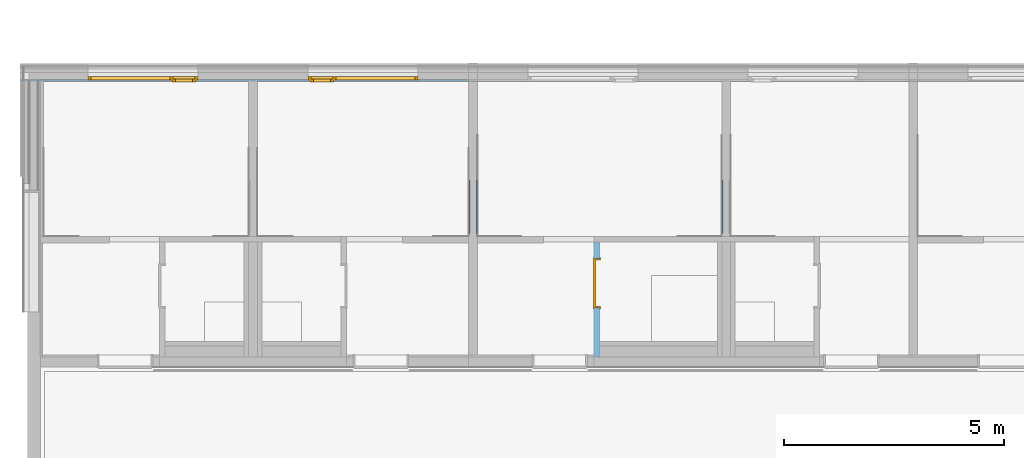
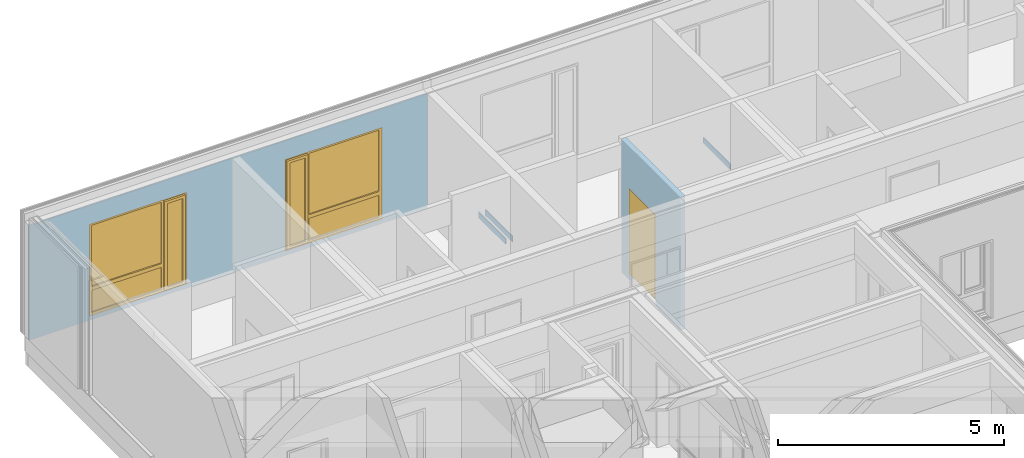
# One storey, part 110 of 207: 3 walls, 2 windows, 1 door, 3 openings, plus 2 elements that do not belong to this part.
"""IFC4 building model written with IfcOpenShell, lengths in metres."""

from ifc_helpers import new_model, entity, si_unit, converted_unit, derived_unit, frame, frame_2d, origin, origin_with_axes, place, context, subcontext, project, spatial, polyline, rectangle, outline, extrude, closed_shell, open_shell, faceted_brep, surface_model, source, transform, mapped, material, type_object, element, fill, save


model = new_model("IFC4")

# Units and contexts
model_context = context("Model", 3, precision=1e-05, world=origin())
body_context = subcontext(model_context, "Body", "Model", "MODEL_VIEW")
ifc_project = project(units=[si_unit("LENGTHUNIT", "METRE"), si_unit("AREAUNIT", "SQUARE_METRE"), si_unit("VOLUMEUNIT", "CUBIC_METRE"), si_unit("MASSUNIT", "GRAM", prefix="KILO"), converted_unit("PLANEANGLEUNIT", "DEGREE", entity("IfcPlaneAngleMeasure", 0.0174532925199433), si_unit("PLANEANGLEUNIT", "RADIAN"), dimensions=[0, 0, 0, 0, 0, 0, 0]), derived_unit("THERMALTRANSMITTANCEUNIT", [(si_unit("POWERUNIT", "WATT"), 1), (si_unit("THERMODYNAMICTEMPERATUREUNIT", "KELVIN"), -1), (si_unit("LENGTHUNIT", "METRE"), -2)]), derived_unit("VOLUMETRICFLOWRATEUNIT", [(si_unit("LENGTHUNIT", "METRE"), 3), (converted_unit("TIMEUNIT", "hour", entity("IfcTimeMeasure", 3600.0), si_unit("TIMEUNIT", "SECOND"), dimensions=[0, 0, 1, 0, 0, 0, 0]), -1), (si_unit("LENGTHUNIT", "METRE"), -1)])], contexts=[model_context])

# Site, building, storey
site_placement = place(None, origin())
site = spatial("IfcSite", under=ifc_project, at=site_placement, Name="Psychiatrie Neubau Wunstorf", CompositionType="ELEMENT")
building_placement = place(site_placement, origin())
building = spatial("IfcBuilding", under=site, at=building_placement, Name="Neubau H2 Stationsgebäude", CompositionType="ELEMENT")
storey_placement = place(building_placement, frame((0.0, 0.0, -0.2)))
storey = spatial("IfcBuildingStorey", under=building, at=storey_placement, Name="H2 Ebene 0", CompositionType="ELEMENT", Elevation=-0.2)

# Wall, openings, windows
ifc_material_1 = material(Name="WA-LB")
wall_1_placement = place(storey_placement, frame((-0.293, 30.614, 0.5)))
wall_1 = element("IfcWall", 1, at=wall_1_placement, inside=storey, material=ifc_material_1, context=body_context, shape_type="SweptSolid", body=[
    extrude(rectangle(XDim=10.193, YDim=0.036, at=frame_2d((5.0965, 0.018), x_axis=(1.0, 0.0))), origin_with_axes(), (0.0, 0.0, 1.0), 3.1),
])
opening_1_placement = place(wall_1_placement, frame((1.543, 0.0, 0.1), z_axis=(0.0, 1.0, 0.0), x_axis=(0.0, 0.0, 1.0)))
opening_1 = element("IfcOpeningElement", 2, at=opening_1_placement, cuts=wall_1, Name="Fensteröffnung", ObjectType="Opening", context=body_context, shape_type="SweptSolid", body=[
    extrude(outline(polyline([(2.5, 2.5), (2.5, 0.0), (0.0, 0.0), (0.0, 2.5), (2.5, 2.5)])), origin_with_axes(), (0.0, 0.0, 1.0), 0.036),
])
opening_2_placement = place(wall_1_placement, frame((6.543, 0.0, 0.1), z_axis=(0.0, 1.0, 0.0), x_axis=(0.0, 0.0, 1.0)))
opening_2 = element("IfcOpeningElement", 3, at=opening_2_placement, cuts=wall_1, Name="Fensteröffnung", ObjectType="Opening", context=body_context, shape_type="SweptSolid", body=[
    extrude(outline(polyline([(2.5, 2.5), (2.5, 0.0), (0.0, 0.0), (0.0, 2.5), (2.5, 2.5)])), origin_with_axes(), (0.0, 0.0, 1.0), 0.036),
])
shared_shape_1 = source(origin_with_axes(), body_context, "Body", "SurfaceModel", [
    surface_model("IfcShellBasedSurfaceModel", [(2.5, 0.0, 2.5), (2.5, 0.0, 0.0), (2.43, 0.0, 0.0), (2.43, 0.0, 2.5), (2.5, 0.0699999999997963, 0.0), (2.5, 0.0699999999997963, 2.5), (2.43, 0.0699999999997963, 2.5), (2.43, 0.0699999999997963, 0.0)], [closed_shell([[[0, 1, 2, 3]], [[4, 5, 6, 7]], [[1, 0, 5, 4]], [[2, 1, 4, 7]], [[3, 2, 7, 6]], [[0, 3, 6, 5]]], orient=[[False], [False], [False], [False], [False], [False]])]),
    surface_model("IfcShellBasedSurfaceModel", [(0.07, 0.0, 2.5), (0.07, 0.0, 0.0), (0.0, 0.0, 0.0), (0.0, 0.0, 2.5), (0.07, 0.0699999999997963, 0.0), (0.07, 0.0699999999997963, 2.5), (0.0, 0.0699999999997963, 2.5), (0.0, 0.0699999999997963, 0.0)], [closed_shell([[[0, 1, 2, 3]], [[4, 5, 6, 7]], [[1, 0, 5, 4]], [[2, 1, 4, 7]], [[3, 2, 7, 6]], [[0, 3, 6, 5]]], orient=[[False], [False], [False], [False], [False], [False]])]),
    surface_model("IfcShellBasedSurfaceModel", [(2.43, 0.0, 0.07), (2.43, 0.0, 0.0), (0.0699999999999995, 0.0, 0.0), (0.0699999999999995, 0.0, 0.07), (2.43, 0.0699999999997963, 0.0), (2.43, 0.0699999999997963, 0.07), (0.0699999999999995, 0.0699999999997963, 0.07), (0.0699999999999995, 0.0699999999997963, 0.0)], [closed_shell([[[0, 1, 2, 3]], [[4, 5, 6, 7]], [[1, 0, 5, 4]], [[2, 1, 4, 7]], [[3, 2, 7, 6]], [[0, 3, 6, 5]]], orient=[[False], [False], [False], [False], [False], [False]])]),
    surface_model("IfcShellBasedSurfaceModel", [(2.43, 0.0, 2.5), (2.43, 0.0, 2.43), (0.0699999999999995, 0.0, 2.43), (0.0699999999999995, 0.0, 2.5), (2.43, 0.0699999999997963, 2.43), (2.43, 0.0699999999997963, 2.5), (0.0699999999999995, 0.0699999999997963, 2.5), (0.0699999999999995, 0.0699999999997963, 2.43)], [closed_shell([[[0, 1, 2, 3]], [[4, 5, 6, 7]], [[1, 0, 5, 4]], [[2, 1, 4, 7]], [[3, 2, 7, 6]], [[0, 3, 6, 5]]], orient=[[False], [False], [False], [False], [False], [False]])]),
    surface_model("IfcShellBasedSurfaceModel", [(1.934285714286, 0.0, 2.43), (1.934285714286, 0.0, 0.07), (1.864285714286, 0.0, 0.07), (1.864285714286, 0.0, 2.43), (1.934285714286, 0.0699999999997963, 0.07), (1.934285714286, 0.0699999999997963, 2.43), (1.864285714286, 0.0699999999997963, 2.43), (1.864285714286, 0.0699999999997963, 0.07)], [closed_shell([[[0, 1, 2, 3]], [[4, 5, 6, 7]], [[1, 0, 5, 4]], [[2, 1, 4, 7]], [[3, 2, 7, 6]], [[0, 3, 6, 5]]], orient=[[False], [False], [False], [False], [False], [False]])]),
    surface_model("IfcShellBasedSurfaceModel", [(2.45, -0.05, 2.45), (2.45, -0.05, 0.05), (2.38, -0.05, 0.05), (2.38, -0.05, 2.45), (2.45, 0.0199999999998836, 0.05), (2.45, 0.0199999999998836, 2.45), (2.38, 0.0199999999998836, 2.45), (2.38, 0.0199999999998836, 0.05)], [closed_shell([[[0, 1, 2, 3]], [[4, 5, 6, 7]], [[1, 0, 5, 4]], [[2, 1, 4, 7]], [[3, 2, 7, 6]], [[0, 3, 6, 5]]], orient=[[False], [False], [False], [False], [False], [False]])]),
    surface_model("IfcShellBasedSurfaceModel", [(1.984285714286, -0.05, 2.45), (1.984285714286, -0.05, 0.05), (1.914285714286, -0.05, 0.05), (1.914285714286, -0.05, 2.45), (1.984285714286, 0.0199999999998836, 0.05), (1.984285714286, 0.0199999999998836, 2.45), (1.914285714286, 0.0199999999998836, 2.45), (1.914285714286, 0.0199999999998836, 0.05)], [closed_shell([[[0, 1, 2, 3]], [[4, 5, 6, 7]], [[1, 0, 5, 4]], [[2, 1, 4, 7]], [[3, 2, 7, 6]], [[0, 3, 6, 5]]], orient=[[False], [False], [False], [False], [False], [False]])]),
    surface_model("IfcShellBasedSurfaceModel", [(2.38, -0.05, 0.12), (2.38, -0.05, 0.05), (1.984285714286, -0.05, 0.05), (1.984285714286, -0.05, 0.12), (2.38, 0.0199999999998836, 0.05), (2.38, 0.0199999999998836, 0.12), (1.984285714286, 0.0199999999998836, 0.12), (1.984285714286, 0.0199999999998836, 0.05)], [closed_shell([[[0, 1, 2, 3]], [[4, 5, 6, 7]], [[1, 0, 5, 4]], [[2, 1, 4, 7]], [[3, 2, 7, 6]], [[0, 3, 6, 5]]], orient=[[False], [False], [False], [False], [False], [False]])]),
    surface_model("IfcShellBasedSurfaceModel", [(2.38, -0.05, 2.45), (2.38, -0.05, 2.38), (1.984285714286, -0.05, 2.38), (1.984285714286, -0.05, 2.45), (2.38, 0.0199999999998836, 2.38), (2.38, 0.0199999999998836, 2.45), (1.984285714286, 0.0199999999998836, 2.45), (1.984285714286, 0.0199999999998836, 2.38)], [closed_shell([[[0, 1, 2, 3]], [[4, 5, 6, 7]], [[1, 0, 5, 4]], [[2, 1, 4, 7]], [[3, 2, 7, 6]], [[0, 3, 6, 5]]], orient=[[False], [False], [False], [False], [False], [False]])]),
    surface_model("IfcShellBasedSurfaceModel", [(1.864285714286, 0.0, 0.77), (1.864285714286, 0.0, 0.67), (0.0699999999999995, 0.0, 0.67), (0.0699999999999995, 0.0, 0.77), (1.864285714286, 0.0699999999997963, 0.67), (1.864285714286, 0.0699999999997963, 0.77), (0.0699999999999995, 0.0699999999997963, 0.77), (0.0699999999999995, 0.0699999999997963, 0.67)], [closed_shell([[[0, 1, 2, 3]], [[4, 5, 6, 7]], [[1, 0, 5, 4]], [[2, 1, 4, 7]], [[3, 2, 7, 6]], [[0, 3, 6, 5]]], orient=[[False], [False], [False], [False], [False], [False]])]),
    surface_model("IfcShellBasedSurfaceModel", [(2.38, -0.0150000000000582, 0.12), (1.984285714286, -0.0150000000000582, 0.12), (1.984285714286, -0.0150000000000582, 2.38), (2.38, -0.0150000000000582, 2.38)], [open_shell([[[0, 1, 2, 3]]], orient=[[False]])]),
    surface_model("IfcShellBasedSurfaceModel", [(1.864285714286, 0.0349999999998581, 0.07), (0.0699999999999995, 0.0349999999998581, 0.07), (0.0699999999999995, 0.0349999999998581, 0.67), (1.864285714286, 0.0349999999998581, 0.67)], [open_shell([[[0, 1, 2, 3]]], orient=[[False]])]),
    surface_model("IfcShellBasedSurfaceModel", [(1.864285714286, 0.0349999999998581, 0.77), (0.0699999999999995, 0.0349999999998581, 0.77), (0.0699999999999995, 0.0349999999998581, 2.43), (1.864285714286, 0.0349999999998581, 2.43)], [open_shell([[[0, 1, 2, 3]]], orient=[[False]])]),
])
window_1_placement = place(opening_1_placement, frame((0.0, 0.0, 0.03), z_axis=(1.0, 0.0, 0.0), x_axis=(0.0, 1.0, 0.0)))
window_1 = element("IfcWindow", 4, at=window_1_placement, inside=storey, Name="Fenster", OverallHeight=2.5, OverallWidth=2.5, PartitioningType="USERDEFINED", PredefinedType="WINDOW", context=body_context, shape_type="MappedRepresentation", body=[
    mapped(shared_shape_1, transform((0.0, 0.0, 0.0), x_axis=(1.0, 0.0, 0.0), y_axis=(0.0, 1.0, 0.0), z_axis=(0.0, 0.0, 1.0), scale=1.0)),
])
fill(opening_1, window_1)
shared_shape_2 = source(origin_with_axes(), body_context, "Body", "SurfaceModel", [
    surface_model("IfcShellBasedSurfaceModel", [(0.0, 0.0, 2.5), (0.07, 0.0, 2.5), (0.07, 0.0, 0.0), (0.0, 0.0, 0.0), (0.0, 0.0699999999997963, 0.0), (0.07, 0.0699999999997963, 0.0), (0.07, 0.0699999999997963, 2.5), (0.0, 0.0699999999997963, 2.5)], [closed_shell([[[0, 1, 2, 3]], [[4, 5, 6, 7]], [[3, 4, 7, 0]], [[2, 5, 4, 3]], [[1, 6, 5, 2]], [[0, 7, 6, 1]]], orient=[[False], [False], [False], [False], [False], [False]])]),
    surface_model("IfcShellBasedSurfaceModel", [(2.43, 0.0, 2.5), (2.5, 0.0, 2.5), (2.5, 0.0, 0.0), (2.43, 0.0, 0.0), (2.43, 0.0699999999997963, 0.0), (2.5, 0.0699999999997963, 0.0), (2.5, 0.0699999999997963, 2.5), (2.43, 0.0699999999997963, 2.5)], [closed_shell([[[0, 1, 2, 3]], [[4, 5, 6, 7]], [[3, 4, 7, 0]], [[2, 5, 4, 3]], [[1, 6, 5, 2]], [[0, 7, 6, 1]]], orient=[[False], [False], [False], [False], [False], [False]])]),
    surface_model("IfcShellBasedSurfaceModel", [(0.07, 0.0, 0.07), (2.43, 0.0, 0.07), (2.43, 0.0, 0.0), (0.07, 0.0, 0.0), (0.07, 0.0699999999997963, 0.0), (2.43, 0.0699999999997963, 0.0), (2.43, 0.0699999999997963, 0.07), (0.07, 0.0699999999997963, 0.07)], [closed_shell([[[0, 1, 2, 3]], [[4, 5, 6, 7]], [[3, 4, 7, 0]], [[2, 5, 4, 3]], [[1, 6, 5, 2]], [[0, 7, 6, 1]]], orient=[[False], [False], [False], [False], [False], [False]])]),
    surface_model("IfcShellBasedSurfaceModel", [(0.07, 0.0, 2.5), (2.43, 0.0, 2.5), (2.43, 0.0, 2.43), (0.07, 0.0, 2.43), (0.07, 0.0699999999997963, 2.43), (2.43, 0.0699999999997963, 2.43), (2.43, 0.0699999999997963, 2.5), (0.07, 0.0699999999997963, 2.5)], [closed_shell([[[0, 1, 2, 3]], [[4, 5, 6, 7]], [[3, 4, 7, 0]], [[2, 5, 4, 3]], [[1, 6, 5, 2]], [[0, 7, 6, 1]]], orient=[[False], [False], [False], [False], [False], [False]])]),
    surface_model("IfcShellBasedSurfaceModel", [(0.565714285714, 0.0, 2.43), (0.635714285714, 0.0, 2.43), (0.635714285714, 0.0, 0.07), (0.565714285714, 0.0, 0.07), (0.565714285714, 0.0699999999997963, 0.07), (0.635714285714, 0.0699999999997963, 0.07), (0.635714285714, 0.0699999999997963, 2.43), (0.565714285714, 0.0699999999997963, 2.43)], [closed_shell([[[0, 1, 2, 3]], [[4, 5, 6, 7]], [[3, 4, 7, 0]], [[2, 5, 4, 3]], [[1, 6, 5, 2]], [[0, 7, 6, 1]]], orient=[[False], [False], [False], [False], [False], [False]])]),
    surface_model("IfcShellBasedSurfaceModel", [(0.05, -0.05, 2.45), (0.12, -0.05, 2.45), (0.12, -0.05, 0.05), (0.05, -0.05, 0.05), (0.05, 0.0199999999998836, 0.05), (0.12, 0.0199999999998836, 0.05), (0.12, 0.0199999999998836, 2.45), (0.05, 0.0199999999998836, 2.45)], [closed_shell([[[0, 1, 2, 3]], [[4, 5, 6, 7]], [[3, 4, 7, 0]], [[2, 5, 4, 3]], [[1, 6, 5, 2]], [[0, 7, 6, 1]]], orient=[[False], [False], [False], [False], [False], [False]])]),
    surface_model("IfcShellBasedSurfaceModel", [(0.515714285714, -0.05, 2.45), (0.585714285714, -0.05, 2.45), (0.585714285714, -0.05, 0.05), (0.515714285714, -0.05, 0.05), (0.515714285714, 0.0199999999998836, 0.05), (0.585714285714, 0.0199999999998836, 0.05), (0.585714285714, 0.0199999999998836, 2.45), (0.515714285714, 0.0199999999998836, 2.45)], [closed_shell([[[0, 1, 2, 3]], [[4, 5, 6, 7]], [[3, 4, 7, 0]], [[2, 5, 4, 3]], [[1, 6, 5, 2]], [[0, 7, 6, 1]]], orient=[[False], [False], [False], [False], [False], [False]])]),
    surface_model("IfcShellBasedSurfaceModel", [(0.12, -0.05, 0.12), (0.515714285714, -0.05, 0.12), (0.515714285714, -0.05, 0.05), (0.12, -0.05, 0.05), (0.12, 0.0199999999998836, 0.05), (0.515714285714, 0.0199999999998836, 0.05), (0.515714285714, 0.0199999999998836, 0.12), (0.12, 0.0199999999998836, 0.12)], [closed_shell([[[0, 1, 2, 3]], [[4, 5, 6, 7]], [[3, 4, 7, 0]], [[2, 5, 4, 3]], [[1, 6, 5, 2]], [[0, 7, 6, 1]]], orient=[[False], [False], [False], [False], [False], [False]])]),
    surface_model("IfcShellBasedSurfaceModel", [(0.12, -0.05, 2.45), (0.515714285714, -0.05, 2.45), (0.515714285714, -0.05, 2.38), (0.12, -0.05, 2.38), (0.12, 0.0199999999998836, 2.38), (0.515714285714, 0.0199999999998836, 2.38), (0.515714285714, 0.0199999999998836, 2.45), (0.12, 0.0199999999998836, 2.45)], [closed_shell([[[0, 1, 2, 3]], [[4, 5, 6, 7]], [[3, 4, 7, 0]], [[2, 5, 4, 3]], [[1, 6, 5, 2]], [[0, 7, 6, 1]]], orient=[[False], [False], [False], [False], [False], [False]])]),
    surface_model("IfcShellBasedSurfaceModel", [(0.635714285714, 0.0, 0.77), (2.43, 0.0, 0.77), (2.43, 0.0, 0.67), (0.635714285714, 0.0, 0.67), (0.635714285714, 0.0699999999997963, 0.67), (2.43, 0.0699999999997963, 0.67), (2.43, 0.0699999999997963, 0.77), (0.635714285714, 0.0699999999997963, 0.77)], [closed_shell([[[0, 1, 2, 3]], [[4, 5, 6, 7]], [[3, 4, 7, 0]], [[2, 5, 4, 3]], [[1, 6, 5, 2]], [[0, 7, 6, 1]]], orient=[[False], [False], [False], [False], [False], [False]])]),
    surface_model("IfcShellBasedSurfaceModel", [(0.12, -0.0150000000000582, 0.12), (0.12, -0.0150000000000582, 2.38), (0.515714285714, -0.0150000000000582, 2.38), (0.515714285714, -0.0150000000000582, 0.12)], [open_shell([[[0, 1, 2, 3]]], orient=[[False]])]),
    surface_model("IfcShellBasedSurfaceModel", [(0.635714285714, 0.0349999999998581, 0.07), (0.635714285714, 0.0349999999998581, 0.67), (2.43, 0.0349999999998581, 0.67), (2.43, 0.0349999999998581, 0.07)], [open_shell([[[0, 1, 2, 3]]], orient=[[False]])]),
    surface_model("IfcShellBasedSurfaceModel", [(0.635714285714, 0.0349999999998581, 0.77), (0.635714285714, 0.0349999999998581, 2.43), (2.43, 0.0349999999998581, 2.43), (2.43, 0.0349999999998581, 0.77)], [open_shell([[[0, 1, 2, 3]]], orient=[[False]])]),
])
window_2_placement = place(opening_2_placement, frame((0.0, 0.0, 0.03), z_axis=(1.0, 0.0, 0.0), x_axis=(0.0, 1.0, 0.0)))
window_2 = element("IfcWindow", 5, at=window_2_placement, inside=storey, Name="Fenster", OverallHeight=2.5, OverallWidth=2.5, PartitioningType="USERDEFINED", PredefinedType="WINDOW", context=body_context, shape_type="MappedRepresentation", body=[
    mapped(shared_shape_2, transform((0.0, 0.0, 0.0), x_axis=(1.0, 0.0, 0.0), y_axis=(0.0, 1.0, 0.0), z_axis=(0.0, 0.0, 1.0), scale=1.0)),
])
fill(opening_2, window_2)

# Wall, opening, door
ifc_material_2 = material(Name="WI-LB")
wall_2_placement = place(storey_placement, frame((12.875, 24.3495, 0.0), z_axis=(0.0, 0.0, 1.0), x_axis=(0.0, 1.0, 0.0)))
wall_2 = element("IfcWall", 6, at=wall_2_placement, inside=storey, material=ifc_material_2, context=body_context, shape_type="SweptSolid", body=[
    extrude(rectangle(XDim=2.61499999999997, YDim=0.125, at=frame_2d((1.30749999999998, 0.0625), x_axis=(1.0, 0.0))), origin_with_axes(), (0.0, 0.0, 1.0), 3.6),
])
opening_3_placement = place(wall_2_placement, frame((1.10499999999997, 0.0, 0.0), z_axis=(0.0, 1.0, 0.0), x_axis=(0.0, 0.0, 1.0)))
opening_3 = element("IfcOpeningElement", 7, at=opening_3_placement, cuts=wall_2, Name="Türöffnung", ObjectType="Opening", context=body_context, shape_type="SweptSolid", body=[
    extrude(outline(polyline([(2.46, 1.135), (2.46, 0.0), (0.0, 0.0), (0.0, 1.135), (2.46, 1.135)])), origin_with_axes(), (0.0, 0.0, 1.0), 0.125),
])
ifc_material_3 = material(Name="TI-1F-UZ-D-N")
door_type = type_object("IfcDoorType", Name="SMT", OperationType="SINGLE_SWING_RIGHT", ParameterTakesPrecedence=False, PredefinedType="DOOR")
shared_shape_3 = source(origin_with_axes(), body_context, "Body", "Brep", [
    faceted_brep([(1.18499999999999, 0.0125000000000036, 0.0), (1.18499999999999, 0.112500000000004, 0.0), (1.13499999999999, 0.112500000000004, 0.0), (1.13499999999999, 0.0125000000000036, 0.0), (1.18499999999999, 0.112500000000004, 3.6), (1.18499999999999, 0.0125000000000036, 3.6), (1.13499999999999, 0.0125000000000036, 3.6), (1.13499999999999, 0.112500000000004, 3.6)], [[[0, 1, 2, 3]], [[4, 5, 6, 7]], [[1, 0, 5, 4]], [[2, 1, 4, 7]], [[3, 2, 7, 6]], [[0, 3, 6, 5]]], orient=[[False], [False], [False], [False], [False], [False]]),
    faceted_brep([(0.0, 0.0125000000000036, 0.0), (0.0, 0.112500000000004, 0.0), (-0.0500000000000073, 0.112500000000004, 0.0), (-0.0500000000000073, 0.0125000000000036, 0.0), (0.0, 0.112500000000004, 3.6), (0.0, 0.0125000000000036, 3.6), (-0.0500000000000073, 0.0125000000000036, 3.6), (-0.0500000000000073, 0.112500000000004, 3.6)], [[[0, 1, 2, 3]], [[4, 5, 6, 7]], [[1, 0, 5, 4]], [[2, 1, 4, 7]], [[3, 2, 7, 6]], [[0, 3, 6, 5]]], orient=[[False], [False], [False], [False], [False], [False]]),
    faceted_brep([(1.13499999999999, 0.0125000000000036, 2.46), (1.13499999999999, 0.112500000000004, 2.46), (0.0, 0.112500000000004, 2.46), (0.0, 0.0125000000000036, 2.46), (1.13499999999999, 0.112500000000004, 2.51), (1.13499999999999, 0.0125000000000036, 2.51), (0.0, 0.0125000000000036, 2.51), (0.0, 0.112500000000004, 2.51)], [[[0, 1, 2, 3]], [[4, 5, 6, 7]], [[1, 0, 5, 4]], [[2, 1, 4, 7]], [[3, 2, 7, 6]], [[0, 3, 6, 5]]], orient=[[False], [False], [False], [False], [False], [False]]),
])
shared_shape_4 = source(origin_with_axes(), body_context, "Body", "Brep", [
    faceted_brep([(0.0, -0.0149999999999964, 2.46), (0.0399999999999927, -0.0149999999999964, 2.46), (0.0399999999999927, -0.0149999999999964, 0.2), (0.0, -0.0149999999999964, 0.2), (0.0, 0.140000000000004, 0.2), (0.0399999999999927, 0.140000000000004, 0.2), (0.0399999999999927, 0.140000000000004, 2.46), (0.0, 0.140000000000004, 2.46)], [[[0, 1, 2, 3]], [[4, 5, 6, 7]], [[3, 4, 7, 0]], [[2, 5, 4, 3]], [[1, 6, 5, 2]], [[0, 7, 6, 1]]], orient=[[False], [False], [False], [False], [False], [False]]),
    faceted_brep([(0.0, -0.0149999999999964, 2.475), (0.0, -0.0149999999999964, 0.2), (-0.0150000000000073, -0.0149999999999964, 0.2), (-0.0150000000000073, -0.0149999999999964, 2.475), (0.0, 0.0, 0.2), (0.0, 0.0, 2.475), (-0.0150000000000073, 0.0, 2.475), (-0.0150000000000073, 0.0, 0.2)], [[[0, 1, 2, 3]], [[4, 5, 6, 7]], [[1, 0, 5, 4]], [[2, 1, 4, 7]], [[3, 2, 7, 6]], [[0, 3, 6, 5]]], orient=[[False], [False], [False], [False], [False], [False]]),
    faceted_brep([(0.0, 0.125000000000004, 2.475), (0.0, 0.125000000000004, 0.2), (-0.0150000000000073, 0.125000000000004, 0.2), (-0.0150000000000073, 0.125000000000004, 2.475), (0.0, 0.140000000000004, 0.2), (0.0, 0.140000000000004, 2.475), (-0.0150000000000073, 0.140000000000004, 2.475), (-0.0150000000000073, 0.140000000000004, 0.2)], [[[0, 1, 2, 3]], [[4, 5, 6, 7]], [[1, 0, 5, 4]], [[2, 1, 4, 7]], [[3, 2, 7, 6]], [[0, 3, 6, 5]]], orient=[[False], [False], [False], [False], [False], [False]]),
    faceted_brep([(1.09499999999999, -0.0149999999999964, 2.46), (1.13499999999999, -0.0149999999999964, 2.46), (1.13499999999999, -0.0149999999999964, 0.2), (1.09499999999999, -0.0149999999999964, 0.2), (1.09499999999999, 0.140000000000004, 0.2), (1.13499999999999, 0.140000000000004, 0.2), (1.13499999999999, 0.140000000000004, 2.46), (1.09499999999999, 0.140000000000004, 2.46)], [[[0, 1, 2, 3]], [[4, 5, 6, 7]], [[3, 4, 7, 0]], [[2, 5, 4, 3]], [[1, 6, 5, 2]], [[0, 7, 6, 1]]], orient=[[False], [False], [False], [False], [False], [False]]),
    faceted_brep([(1.13499999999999, -0.0149999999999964, 2.475), (1.14999999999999, -0.0149999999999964, 2.475), (1.14999999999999, -0.0149999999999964, 0.2), (1.13499999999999, -0.0149999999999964, 0.2), (1.13499999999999, 0.0, 0.2), (1.14999999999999, 0.0, 0.2), (1.14999999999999, 0.0, 2.475), (1.13499999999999, 0.0, 2.475)], [[[0, 1, 2, 3]], [[4, 5, 6, 7]], [[3, 4, 7, 0]], [[2, 5, 4, 3]], [[1, 6, 5, 2]], [[0, 7, 6, 1]]], orient=[[False], [False], [False], [False], [False], [False]]),
    faceted_brep([(1.13499999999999, 0.125000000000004, 2.475), (1.14999999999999, 0.125000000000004, 2.475), (1.14999999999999, 0.125000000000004, 0.2), (1.13499999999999, 0.125000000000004, 0.2), (1.13499999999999, 0.140000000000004, 0.2), (1.14999999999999, 0.140000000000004, 0.2), (1.14999999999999, 0.140000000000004, 2.475), (1.13499999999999, 0.140000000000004, 2.475)], [[[0, 1, 2, 3]], [[4, 5, 6, 7]], [[3, 4, 7, 0]], [[2, 5, 4, 3]], [[1, 6, 5, 2]], [[0, 7, 6, 1]]], orient=[[False], [False], [False], [False], [False], [False]]),
    faceted_brep([(0.0399999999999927, -0.0149999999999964, 2.46), (1.09499999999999, -0.0149999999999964, 2.46), (1.09499999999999, -0.0149999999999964, 2.42), (0.0399999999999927, -0.0149999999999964, 2.42), (0.0399999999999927, 0.140000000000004, 2.42), (1.09499999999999, 0.140000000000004, 2.42), (1.09499999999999, 0.140000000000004, 2.46), (0.0399999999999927, 0.140000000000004, 2.46)], [[[0, 1, 2, 3]], [[4, 5, 6, 7]], [[3, 4, 7, 0]], [[2, 5, 4, 3]], [[1, 6, 5, 2]], [[0, 7, 6, 1]]], orient=[[False], [False], [False], [False], [False], [False]]),
    faceted_brep([(0.0, -0.0149999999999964, 2.475), (1.13499999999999, -0.0149999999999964, 2.475), (1.13499999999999, -0.0149999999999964, 2.46), (0.0, -0.0149999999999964, 2.46), (0.0, 0.0, 2.46), (1.13499999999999, 0.0, 2.46), (1.13499999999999, 0.0, 2.475), (0.0, 0.0, 2.475)], [[[0, 1, 2, 3]], [[4, 5, 6, 7]], [[3, 4, 7, 0]], [[2, 5, 4, 3]], [[1, 6, 5, 2]], [[0, 7, 6, 1]]], orient=[[False], [False], [False], [False], [False], [False]]),
    faceted_brep([(0.0, 0.125000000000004, 2.475), (1.13499999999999, 0.125000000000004, 2.475), (1.13499999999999, 0.125000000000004, 2.46), (0.0, 0.125000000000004, 2.46), (0.0, 0.140000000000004, 2.46), (1.13499999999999, 0.140000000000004, 2.46), (1.13499999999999, 0.140000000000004, 2.475), (0.0, 0.140000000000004, 2.475)], [[[0, 1, 2, 3]], [[4, 5, 6, 7]], [[3, 4, 7, 0]], [[2, 5, 4, 3]], [[1, 6, 5, 2]], [[0, 7, 6, 1]]], orient=[[False], [False], [False], [False], [False], [False]]),
    faceted_brep([(0.0249999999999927, 0.0910000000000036, 2.435), (1.10999999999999, 0.0910000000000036, 2.435), (1.10999999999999, 0.0910000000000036, 0.2), (0.0249999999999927, 0.0910000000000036, 0.2), (0.0249999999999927, 0.141000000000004, 0.2), (1.10999999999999, 0.141000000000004, 0.2), (1.10999999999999, 0.141000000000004, 2.435), (0.0249999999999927, 0.141000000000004, 2.435)], [[[0, 1, 2, 3]], [[4, 5, 6, 7]], [[3, 4, 7, 0]], [[2, 5, 4, 3]], [[1, 6, 5, 2]], [[0, 7, 6, 1]]], orient=[[False], [False], [False], [False], [False], [False]]),
])
door_placement = place(opening_3_placement, frame((0.0, 0.0, 0.0), z_axis=(1.0, 0.0, 0.0), x_axis=(0.0, 1.0, 0.0)))
door = element("IfcDoor", 8, at=door_placement, inside=storey, type_object=door_type, material=ifc_material_3, Name="SMT", OverallHeight=2.46, OverallWidth=1.135, context=body_context, shape_type="MappedRepresentation", body=[
    mapped(shared_shape_3, transform((0.0, 0.0, 0.0), x_axis=(1.0, 0.0, 0.0), y_axis=(0.0, 1.0, 0.0), z_axis=(0.0, 0.0, 1.0), scale=1.0)),
    mapped(shared_shape_4, transform((0.0, 0.0, 0.0), x_axis=(1.0, 0.0, 0.0), y_axis=(0.0, 1.0, 0.0), z_axis=(0.0, 0.0, 1.0), scale=1.0)),
])
fill(opening_3, door)

# Walls
for number, where, name in (
    (9, (9.89999999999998, 27.1628367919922, 1.625), "WV 1.1"),
    (10, (10.075, 27.1628367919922, 1.625), "WV 1.1"),
    (11, (15.65, 27.1628367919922, 1.625), "WV 1.1"),
):
    element("IfcWall", number, at=place(storey_placement, frame(where)), inside=storey, Name=name, context=body_context, shape_type="Brep", body=[
        faceted_brep([(0.025, 1.2, 0.0), (0.0, 1.2, 0.0), (0.0, 0.0, 0.0), (0.025, 0.0, 0.0), (0.0, 1.2, 0.15), (0.025, 1.2, 0.15), (0.025, 0.0, 0.15), (0.0, 0.0, 0.15)], [[[0, 1, 2, 3]], [[4, 5, 6, 7]], [[1, 0, 5, 4]], [[2, 1, 4, 7]], [[3, 2, 7, 6]], [[0, 3, 6, 5]]], orient=[[False], [False], [False], [False], [False], [False]]),
    ])

save(model, "model.ifc")
